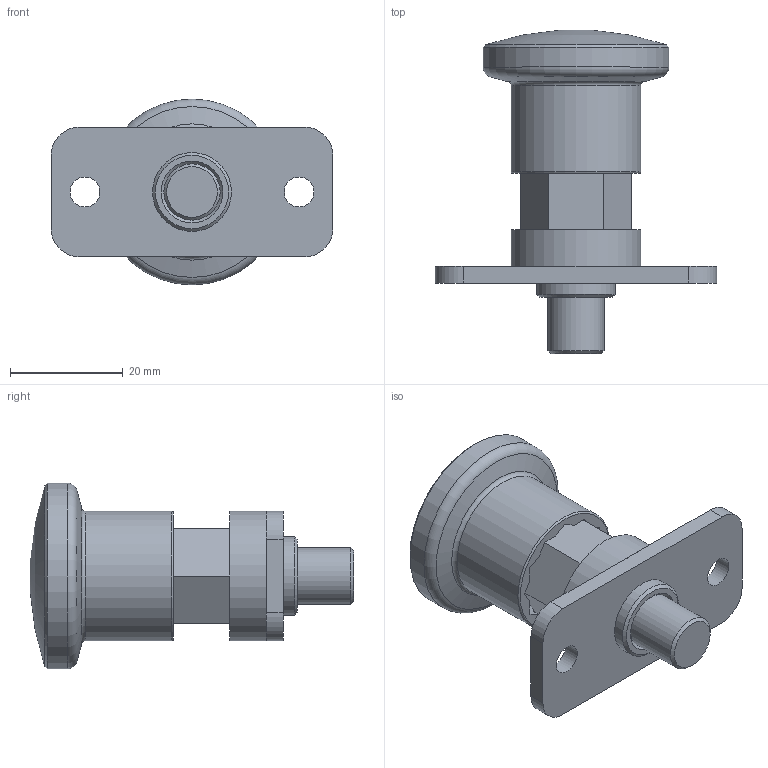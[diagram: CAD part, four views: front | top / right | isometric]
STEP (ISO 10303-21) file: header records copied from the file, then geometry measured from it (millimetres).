
FILE_DESCRIPTION( ( 'STEP AP203' ), '1' );
FILE_NAME( 'C:/Temp/Ganter_Step_05_03_2020/data/3_1/gn822_9/gn822_9_c/Stainless Steel-Mini indexing plunger GN 822.9-10-20-C (activated).stp', '2020-03-12T09:25:08', ( 'License CC BY-ND 4.0' ), ( 'CADENAS' ), ' ', 'PARTsolutions', ' ' );
FILE_SCHEMA( ( 'CONFIG_CONTROL_DESIGN' ) );
Length unit declared in the file: millimetre
Products named in the file (3): Stainless Steel-Mini indexing plunger GN 822.9-10-20-C (activated); _Stainless Steel-Mini indexing plunger GN 822.9-10-20-C (deactivated)_1; _Stainless Steel-Mini indexing plunger GN 822.9-10-20-C (deactivated)_2
Assembly tree (2 placements, depth 2):
  Stainless Steel-Mini indexing plunger GN 822.9-10-20-C (activated)
    _Stainless Steel-Mini indexing plunger GN 822.9-10-20-C (deactivated)_1
    _Stainless Steel-Mini indexing plunger GN 822.9-10-20-C (deactivated)_2
Bounding box: 50 x 57.42 x 33 mm (x, y, z)
Volume: 19774.9 mm3; surface area: 11640.8 mm2
Topology: 2 solids, 2 shells, 79 faces, 187 edges, 118 vertices
Faces by surface type: plane 46, cylinder 15, cone 14, torus 3, sphere 1
Full cylindrical faces by diameter (mm): 5.3 x2, 7.5 x2, 10 x2, 14 x1, 17 x1, 23 x2, 33 x1
Entity records: 2328 total; most frequent: CARTESIAN_POINT 496, DIRECTION 354, ORIENTED_EDGE 322, EDGE_CURVE 161, AXIS2_PLACEMENT_3D 129, VERTEX_POINT 115, EDGE_LOOP 114, LINE 96
